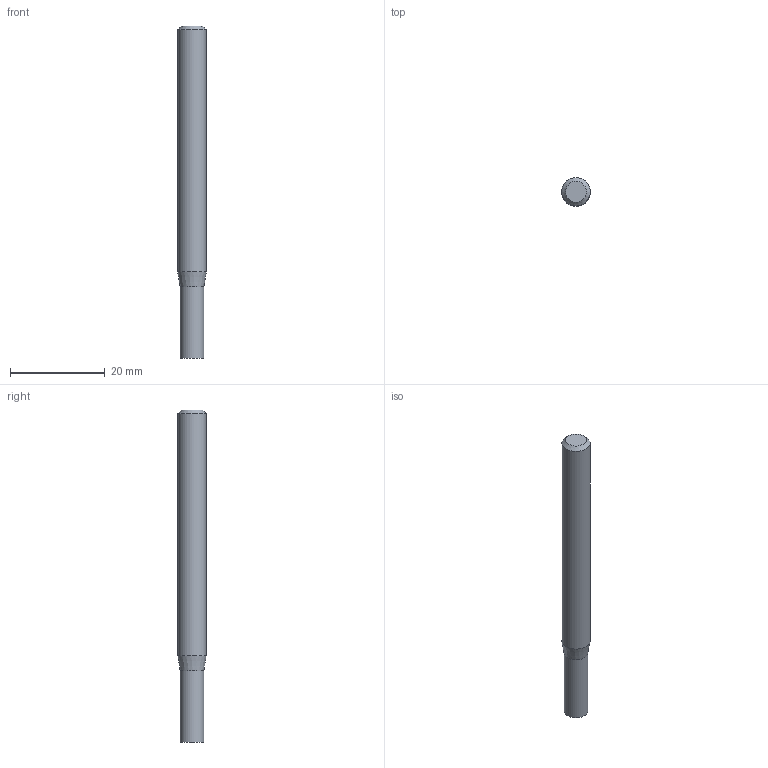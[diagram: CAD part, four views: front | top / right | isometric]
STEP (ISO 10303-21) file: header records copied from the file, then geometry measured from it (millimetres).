
FILE_DESCRIPTION((''),'2;1');
FILE_NAME('C:\Users\nsx150\Desktop\RSE230_20210427\01-00644-05000 RSE230 D5X15.step','2021-05-07T14:54:18',(''),(''),'STEP Write','Mastercam 2021 ... CNC Software, Inc.','');
FILE_SCHEMA(('AUTOMOTIVE_DESIGN'));
Length unit declared in the file: millimetre
Products named in the file (1): None
Bounding box: 6 x 6 x 70 mm (x, y, z)
Volume: 1830.1 mm3; surface area: 1345.6 mm2
Topology: 2 solids, 2 shells, 8 faces, 10 edges, 6 vertices
Faces by surface type: plane 4, cylinder 2, cone 2
Full cylindrical faces by diameter (mm): 5 x1, 6 x1
Entity records: 190 total; most frequent: DIRECTION 32, CARTESIAN_POINT 22, AXIS2_PLACEMENT_3D 16, ORIENTED_EDGE 12, EDGE_LOOP 12, STYLED_ITEM 11, ADVANCED_FACE 8, VERTEX_POINT 6
